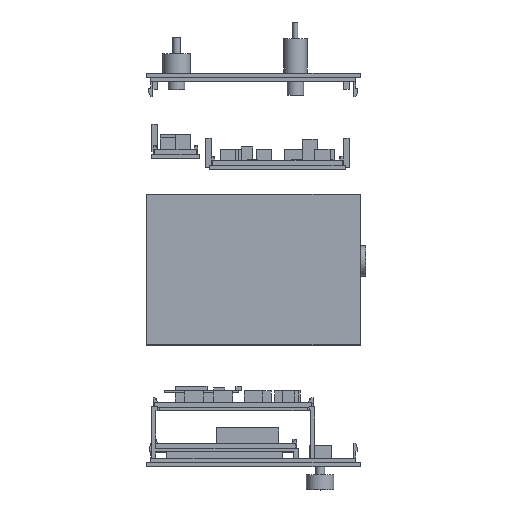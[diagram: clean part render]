
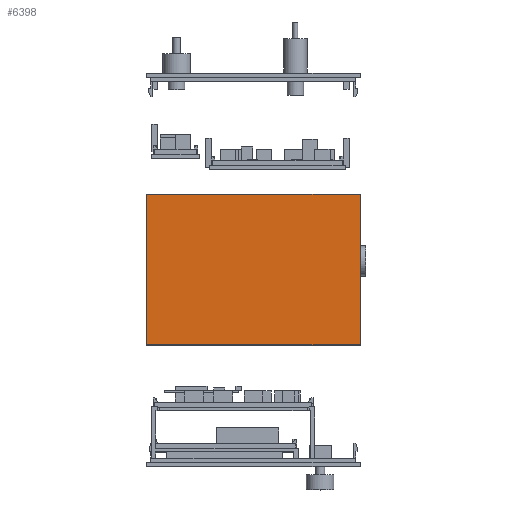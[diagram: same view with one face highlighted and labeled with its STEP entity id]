
A CAD part, top view. The second image highlights one B-rep face of the part: STEP entity #6398.
In plain terms, the highlighted planar face has unit normal (0, 0, 1).
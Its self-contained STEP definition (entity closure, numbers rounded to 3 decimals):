
#5867 = VERTEX_POINT('',#5868);
#5868 = CARTESIAN_POINT('',(0.,3.,100.));
#5875 = PLANE('',#5876);
#5876 = AXIS2_PLACEMENT_3D('',#5877,#5878,#5879);
#5877 = CARTESIAN_POINT('',(0.,3.,0.));
#5878 = DIRECTION('',(1.,0.,0.));
#5879 = DIRECTION('',(0.,0.,1.));
#5887 = PLANE('',#5888);
#5888 = AXIS2_PLACEMENT_3D('',#5889,#5890,#5891);
#5889 = CARTESIAN_POINT('',(0.,3.,0.));
#5890 = DIRECTION('',(0.,1.,0.));
#5891 = DIRECTION('',(0.,0.,1.));
#5928 = VERTEX_POINT('',#5929);
#5929 = CARTESIAN_POINT('',(0.,112.,100.));
#5943 = PLANE('',#5944);
#5944 = AXIS2_PLACEMENT_3D('',#5945,#5946,#5947);
#5945 = CARTESIAN_POINT('',(0.,112.,0.));
#5946 = DIRECTION('',(0.,1.,0.));
#5947 = DIRECTION('',(0.,0.,1.));
#5955 = EDGE_CURVE('',#5867,#5928,#5956,.T.);
#5956 = SURFACE_CURVE('',#5957,(#5961,#5968),.PCURVE_S1.);
#5957 = LINE('',#5958,#5959);
#5958 = CARTESIAN_POINT('',(0.,3.,100.));
#5959 = VECTOR('',#5960,1.);
#5960 = DIRECTION('',(0.,1.,0.));
#5961 = PCURVE('',#5875,#5962);
#5962 = DEFINITIONAL_REPRESENTATION('',(#5963),#5967);
#5963 = LINE('',#5964,#5965);
#5964 = CARTESIAN_POINT('',(100.,0.));
#5965 = VECTOR('',#5966,1.);
#5966 = DIRECTION('',(0.,-1.));
#5967 = ( GEOMETRIC_REPRESENTATION_CONTEXT(2) 
PARAMETRIC_REPRESENTATION_CONTEXT() REPRESENTATION_CONTEXT('2D SPACE',''
  ) );
#5968 = PCURVE('',#5969,#5974);
#5969 = PLANE('',#5970);
#5970 = AXIS2_PLACEMENT_3D('',#5971,#5972,#5973);
#5971 = CARTESIAN_POINT('',(0.,3.,100.));
#5972 = DIRECTION('',(0.,0.,1.));
#5973 = DIRECTION('',(1.,0.,0.));
#5974 = DEFINITIONAL_REPRESENTATION('',(#5975),#5979);
#5975 = LINE('',#5976,#5977);
#5976 = CARTESIAN_POINT('',(0.,0.));
#5977 = VECTOR('',#5978,1.);
#5978 = DIRECTION('',(0.,1.));
#5979 = ( GEOMETRIC_REPRESENTATION_CONTEXT(2) 
PARAMETRIC_REPRESENTATION_CONTEXT() REPRESENTATION_CONTEXT('2D SPACE',''
  ) );
#6236 = EDGE_CURVE('',#5867,#6237,#6239,.T.);
#6237 = VERTEX_POINT('',#6238);
#6238 = CARTESIAN_POINT('',(155.,3.,100.));
#6239 = SURFACE_CURVE('',#6240,(#6244,#6251),.PCURVE_S1.);
#6240 = LINE('',#6241,#6242);
#6241 = CARTESIAN_POINT('',(0.,3.,100.));
#6242 = VECTOR('',#6243,1.);
#6243 = DIRECTION('',(1.,0.,0.));
#6244 = PCURVE('',#5887,#6245);
#6245 = DEFINITIONAL_REPRESENTATION('',(#6246),#6250);
#6246 = LINE('',#6247,#6248);
#6247 = CARTESIAN_POINT('',(100.,0.));
#6248 = VECTOR('',#6249,1.);
#6249 = DIRECTION('',(0.,1.));
#6250 = ( GEOMETRIC_REPRESENTATION_CONTEXT(2) 
PARAMETRIC_REPRESENTATION_CONTEXT() REPRESENTATION_CONTEXT('2D SPACE',''
  ) );
#6251 = PCURVE('',#5969,#6252);
#6252 = DEFINITIONAL_REPRESENTATION('',(#6253),#6257);
#6253 = LINE('',#6254,#6255);
#6254 = CARTESIAN_POINT('',(0.,0.));
#6255 = VECTOR('',#6256,1.);
#6256 = DIRECTION('',(1.,0.));
#6257 = ( GEOMETRIC_REPRESENTATION_CONTEXT(2) 
PARAMETRIC_REPRESENTATION_CONTEXT() REPRESENTATION_CONTEXT('2D SPACE',''
  ) );
#6273 = PLANE('',#6274);
#6274 = AXIS2_PLACEMENT_3D('',#6275,#6276,#6277);
#6275 = CARTESIAN_POINT('',(155.,3.,0.));
#6276 = DIRECTION('',(1.,0.,0.));
#6277 = DIRECTION('',(0.,0.,1.));
#6398 = ADVANCED_FACE('',(#6399),#5969,.T.);
#6399 = FACE_BOUND('',#6400,.T.);
#6400 = EDGE_LOOP('',(#6401,#6402,#6403,#6426));
#6401 = ORIENTED_EDGE('',*,*,#5955,.F.);
#6402 = ORIENTED_EDGE('',*,*,#6236,.T.);
#6403 = ORIENTED_EDGE('',*,*,#6404,.T.);
#6404 = EDGE_CURVE('',#6237,#6405,#6407,.T.);
#6405 = VERTEX_POINT('',#6406);
#6406 = CARTESIAN_POINT('',(155.,112.,100.));
#6407 = SURFACE_CURVE('',#6408,(#6412,#6419),.PCURVE_S1.);
#6408 = LINE('',#6409,#6410);
#6409 = CARTESIAN_POINT('',(155.,3.,100.));
#6410 = VECTOR('',#6411,1.);
#6411 = DIRECTION('',(0.,1.,0.));
#6412 = PCURVE('',#5969,#6413);
#6413 = DEFINITIONAL_REPRESENTATION('',(#6414),#6418);
#6414 = LINE('',#6415,#6416);
#6415 = CARTESIAN_POINT('',(155.,0.));
#6416 = VECTOR('',#6417,1.);
#6417 = DIRECTION('',(0.,1.));
#6418 = ( GEOMETRIC_REPRESENTATION_CONTEXT(2) 
PARAMETRIC_REPRESENTATION_CONTEXT() REPRESENTATION_CONTEXT('2D SPACE',''
  ) );
#6419 = PCURVE('',#6273,#6420);
#6420 = DEFINITIONAL_REPRESENTATION('',(#6421),#6425);
#6421 = LINE('',#6422,#6423);
#6422 = CARTESIAN_POINT('',(100.,0.));
#6423 = VECTOR('',#6424,1.);
#6424 = DIRECTION('',(0.,-1.));
#6425 = ( GEOMETRIC_REPRESENTATION_CONTEXT(2) 
PARAMETRIC_REPRESENTATION_CONTEXT() REPRESENTATION_CONTEXT('2D SPACE',''
  ) );
#6426 = ORIENTED_EDGE('',*,*,#6427,.F.);
#6427 = EDGE_CURVE('',#5928,#6405,#6428,.T.);
#6428 = SURFACE_CURVE('',#6429,(#6433,#6440),.PCURVE_S1.);
#6429 = LINE('',#6430,#6431);
#6430 = CARTESIAN_POINT('',(0.,112.,100.));
#6431 = VECTOR('',#6432,1.);
#6432 = DIRECTION('',(1.,0.,0.));
#6433 = PCURVE('',#5969,#6434);
#6434 = DEFINITIONAL_REPRESENTATION('',(#6435),#6439);
#6435 = LINE('',#6436,#6437);
#6436 = CARTESIAN_POINT('',(0.,109.));
#6437 = VECTOR('',#6438,1.);
#6438 = DIRECTION('',(1.,0.));
#6439 = ( GEOMETRIC_REPRESENTATION_CONTEXT(2) 
PARAMETRIC_REPRESENTATION_CONTEXT() REPRESENTATION_CONTEXT('2D SPACE',''
  ) );
#6440 = PCURVE('',#5943,#6441);
#6441 = DEFINITIONAL_REPRESENTATION('',(#6442),#6446);
#6442 = LINE('',#6443,#6444);
#6443 = CARTESIAN_POINT('',(100.,0.));
#6444 = VECTOR('',#6445,1.);
#6445 = DIRECTION('',(0.,1.));
#6446 = ( GEOMETRIC_REPRESENTATION_CONTEXT(2) 
PARAMETRIC_REPRESENTATION_CONTEXT() REPRESENTATION_CONTEXT('2D SPACE',''
  ) );
